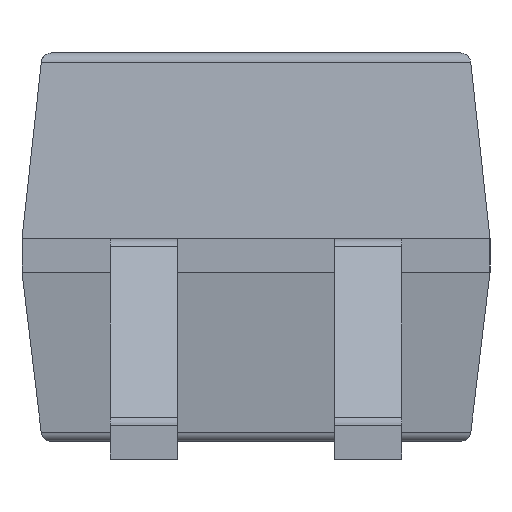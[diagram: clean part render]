
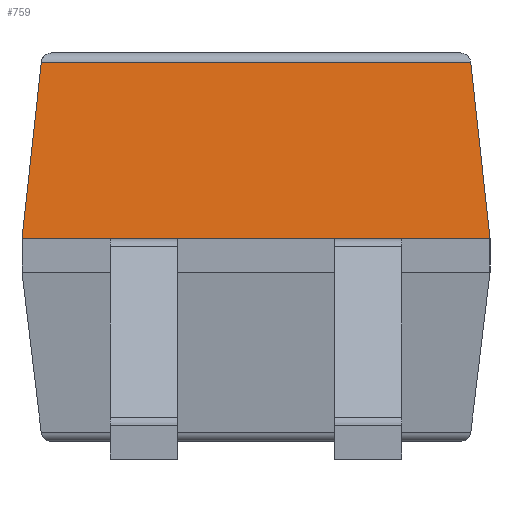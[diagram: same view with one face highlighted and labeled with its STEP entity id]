
A CAD part, left-side view. The second image highlights one B-rep face of the part: STEP entity #759.
In plain terms, the highlighted planar face has unit normal (-0.994, 0, 0.109).
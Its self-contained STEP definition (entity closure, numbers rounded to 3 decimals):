
#87 = PLANE('',#88);
#88 = AXIS2_PLACEMENT_3D('',#89,#90,#91);
#89 = CARTESIAN_POINT('',(-2.3,-1.325,0.1));
#90 = DIRECTION('',(1.,0.,0.));
#91 = DIRECTION('',(0.,0.,1.));
#350 = VERTEX_POINT('',#351);
#351 = CARTESIAN_POINT('',(-2.3,-1.325,1.249));
#374 = VERTEX_POINT('',#375);
#375 = CARTESIAN_POINT('',(-2.3,1.325,1.249));
#401 = EDGE_CURVE('',#350,#374,#402,.T.);
#402 = SURFACE_CURVE('',#403,(#407,#414),.PCURVE_S1.);
#403 = LINE('',#404,#405);
#404 = CARTESIAN_POINT('',(-2.3,-1.325,1.249));
#405 = VECTOR('',#406,1.);
#406 = DIRECTION('',(0.,1.,0.));
#407 = PCURVE('',#87,#408);
#408 = DEFINITIONAL_REPRESENTATION('',(#409),#413);
#409 = LINE('',#410,#411);
#410 = CARTESIAN_POINT('',(1.149,0.));
#411 = VECTOR('',#412,1.);
#412 = DIRECTION('',(0.,-1.));
#413 = ( GEOMETRIC_REPRESENTATION_CONTEXT(2) 
PARAMETRIC_REPRESENTATION_CONTEXT() REPRESENTATION_CONTEXT('2D SPACE',''
  ) );
#414 = PCURVE('',#415,#420);
#415 = PLANE('',#416);
#416 = AXIS2_PLACEMENT_3D('',#417,#418,#419);
#417 = CARTESIAN_POINT('',(-2.243,-1.325,1.774));
#418 = DIRECTION('',(0.994,0.,-0.109));
#419 = DIRECTION('',(0.,1.,0.));
#420 = DEFINITIONAL_REPRESENTATION('',(#421),#425);
#421 = LINE('',#422,#423);
#422 = CARTESIAN_POINT('',(0.,-0.529));
#423 = VECTOR('',#424,1.);
#424 = DIRECTION('',(1.,0.));
#425 = ( GEOMETRIC_REPRESENTATION_CONTEXT(2) 
PARAMETRIC_REPRESENTATION_CONTEXT() REPRESENTATION_CONTEXT('2D SPACE',''
  ) );
#612 = PLANE('',#613);
#613 = AXIS2_PLACEMENT_3D('',#614,#615,#616);
#614 = CARTESIAN_POINT('',(-2.3,-1.268,1.774));
#615 = DIRECTION('',(0.,0.994,-0.109));
#616 = DIRECTION('',(-1.,-0.,-0.));
#759 = ADVANCED_FACE('',(#760),#415,.F.);
#760 = FACE_BOUND('',#761,.F.);
#761 = EDGE_LOOP('',(#762,#785,#786,#814));
#762 = ORIENTED_EDGE('',*,*,#763,.F.);
#763 = EDGE_CURVE('',#350,#764,#766,.T.);
#764 = VERTEX_POINT('',#765);
#765 = CARTESIAN_POINT('',(-2.191,-1.216,
    2.247));
#766 = SURFACE_CURVE('',#767,(#771,#778),.PCURVE_S1.);
#767 = LINE('',#768,#769);
#768 = CARTESIAN_POINT('',(-2.243,-1.268,1.768
    ));
#769 = VECTOR('',#770,1.);
#770 = DIRECTION('',(0.108,0.108,0.988));
#771 = PCURVE('',#415,#772);
#772 = DEFINITIONAL_REPRESENTATION('',(#773),#777);
#773 = LINE('',#774,#775);
#774 = CARTESIAN_POINT('',(0.057,-0.006));
#775 = VECTOR('',#776,1.);
#776 = DIRECTION('',(0.108,0.994));
#777 = ( GEOMETRIC_REPRESENTATION_CONTEXT(2) 
PARAMETRIC_REPRESENTATION_CONTEXT() REPRESENTATION_CONTEXT('2D SPACE',''
  ) );
#778 = PCURVE('',#612,#779);
#779 = DEFINITIONAL_REPRESENTATION('',(#780),#784);
#780 = LINE('',#781,#782);
#781 = CARTESIAN_POINT('',(-0.057,-0.006));
#782 = VECTOR('',#783,1.);
#783 = DIRECTION('',(-0.108,0.994));
#784 = ( GEOMETRIC_REPRESENTATION_CONTEXT(2) 
PARAMETRIC_REPRESENTATION_CONTEXT() REPRESENTATION_CONTEXT('2D SPACE',''
  ) );
#785 = ORIENTED_EDGE('',*,*,#401,.T.);
#786 = ORIENTED_EDGE('',*,*,#787,.T.);
#787 = EDGE_CURVE('',#374,#788,#790,.T.);
#788 = VERTEX_POINT('',#789);
#789 = CARTESIAN_POINT('',(-2.191,1.216,2.247
    ));
#790 = SURFACE_CURVE('',#791,(#795,#802),.PCURVE_S1.);
#791 = LINE('',#792,#793);
#792 = CARTESIAN_POINT('',(-2.228,1.253,1.91
    ));
#793 = VECTOR('',#794,1.);
#794 = DIRECTION('',(0.108,-0.108,0.988));
#795 = PCURVE('',#415,#796);
#796 = DEFINITIONAL_REPRESENTATION('',(#797),#801);
#797 = LINE('',#798,#799);
#798 = CARTESIAN_POINT('',(2.578,0.136));
#799 = VECTOR('',#800,1.);
#800 = DIRECTION('',(-0.108,0.994));
#801 = ( GEOMETRIC_REPRESENTATION_CONTEXT(2) 
PARAMETRIC_REPRESENTATION_CONTEXT() REPRESENTATION_CONTEXT('2D SPACE',''
  ) );
#802 = PCURVE('',#803,#808);
#803 = PLANE('',#804);
#804 = AXIS2_PLACEMENT_3D('',#805,#806,#807);
#805 = CARTESIAN_POINT('',(-2.3,1.268,1.774));
#806 = DIRECTION('',(0.,0.994,0.109));
#807 = DIRECTION('',(-1.,0.,0.));
#808 = DEFINITIONAL_REPRESENTATION('',(#809),#813);
#809 = LINE('',#810,#811);
#810 = CARTESIAN_POINT('',(-0.072,0.136));
#811 = VECTOR('',#812,1.);
#812 = DIRECTION('',(-0.108,0.994));
#813 = ( GEOMETRIC_REPRESENTATION_CONTEXT(2) 
PARAMETRIC_REPRESENTATION_CONTEXT() REPRESENTATION_CONTEXT('2D SPACE',''
  ) );
#814 = ORIENTED_EDGE('',*,*,#815,.F.);
#815 = EDGE_CURVE('',#764,#788,#816,.T.);
#816 = SURFACE_CURVE('',#817,(#821,#828),.PCURVE_S1.);
#817 = LINE('',#818,#819);
#818 = CARTESIAN_POINT('',(-2.191,-1.21,2.247));
#819 = VECTOR('',#820,1.);
#820 = DIRECTION('',(0.,1.,0.));
#821 = PCURVE('',#415,#822);
#822 = DEFINITIONAL_REPRESENTATION('',(#823),#827);
#823 = LINE('',#824,#825);
#824 = CARTESIAN_POINT('',(0.115,0.475));
#825 = VECTOR('',#826,1.);
#826 = DIRECTION('',(1.,0.));
#827 = ( GEOMETRIC_REPRESENTATION_CONTEXT(2) 
PARAMETRIC_REPRESENTATION_CONTEXT() REPRESENTATION_CONTEXT('2D SPACE',''
  ) );
#828 = PCURVE('',#829,#834);
#829 = CYLINDRICAL_SURFACE('',#830,0.06);
#830 = AXIS2_PLACEMENT_3D('',#831,#832,#833);
#831 = CARTESIAN_POINT('',(-2.131,-1.21,2.24));
#832 = DIRECTION('',(0.,1.,0.));
#833 = DIRECTION('',(-0.994,0.,0.109));
#834 = DEFINITIONAL_REPRESENTATION('',(#835),#839);
#835 = LINE('',#836,#837);
#836 = CARTESIAN_POINT('',(0.,0.));
#837 = VECTOR('',#838,1.);
#838 = DIRECTION('',(0.,1.));
#839 = ( GEOMETRIC_REPRESENTATION_CONTEXT(2) 
PARAMETRIC_REPRESENTATION_CONTEXT() REPRESENTATION_CONTEXT('2D SPACE',''
  ) );
